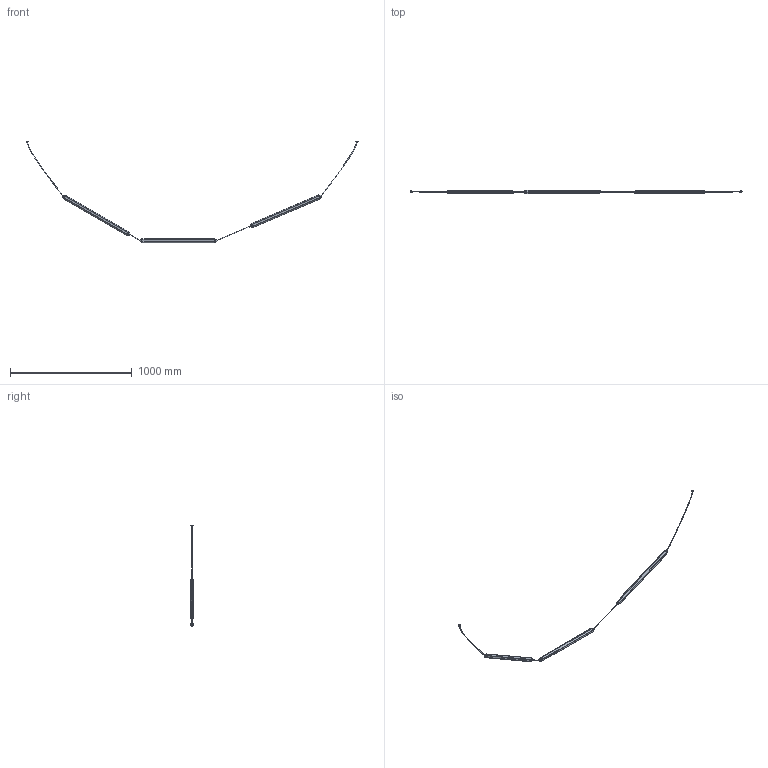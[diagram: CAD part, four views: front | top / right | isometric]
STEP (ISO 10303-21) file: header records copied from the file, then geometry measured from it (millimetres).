
FILE_DESCRIPTION(/* description */ (''),/* implementation_level */ '2;1');
FILE_NAME(/* name */ '64652-131_3d',/* time_stamp */ '2026-05-26T10:52:01+02:00',/* author */ (''),/* organization */ (''),/* preprocessor_version */ 'ST-DEVELOPER v19.2',/* originating_system */ 'Rhino 8.30',/* authorisation */ '');
FILE_SCHEMA (('CONFIG_CONTROL_DESIGN'));
Length unit declared in the file: millimetre
Products named in the file (1): Document
Bounding box: 2731.66 x 30.39 x 833.7 mm (x, y, z)
Volume: 681616.8 mm3; surface area: 317146.1 mm2
Topology: 13 solids, 17 shells, 285 faces, 827 edges, 528 vertices
Faces by surface type: cylinder 163, plane 106, bspline 16
Entity records: 13632 total; most frequent: CARTESIAN_POINT 6911, ORIENTED_EDGE 1614, DIRECTION 853, EDGE_CURVE 813, AXIS2_PLACEMENT_3D 561, VERTEX_POINT 526, B_SPLINE_CURVE_WITH_KNOTS 485, EDGE_LOOP 309
